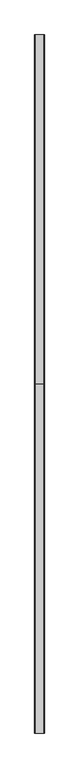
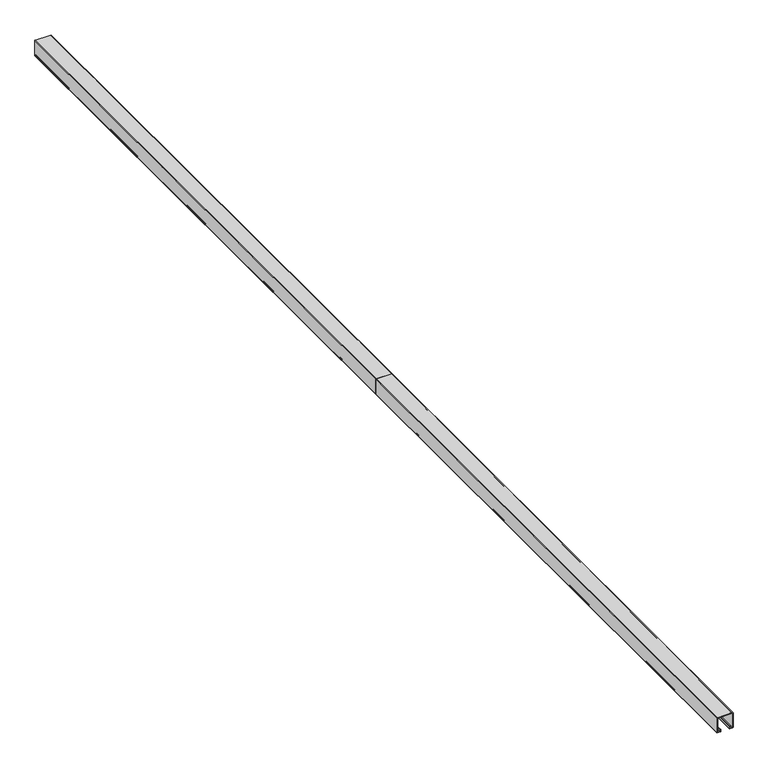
"""IFC4 building model written with IfcOpenShell, lengths in millimetres: proxy geometry, modelo_cirrus 33.3dm."""

from ifc_helpers import new_model, si_unit, point, frame, frame_2d, origin, place, context, project, spatial, polyline, circle_curve, trimmed, segment, composite_curve, outline, extrude, source, transform, mapped, element, save


def generic_models_71086687(model_context):
    return source(origin(), model_context, "Body", "SweptSolid", [
        extrude(outline(composite_curve([segment(polyline([(273.8657165, -1817.236663), (277.4657165, -1817.236663)]), True, "CONTINUOUS"), segment(trimmed(circle_curve(frame_2d((277.4657165, -1818.236663)), 1.0), [point((277.4657165, -1817.236663))], [point((277.4657165, -1819.236663))], False, "CARTESIAN"), True, "CONTINUOUS"), segment(polyline([(277.4657165, -1819.236663), (272.3657165, -1819.236663)]), True, "CONTINUOUS"), segment(trimmed(circle_curve(frame_2d((272.3657165, -1818.236663)), 1.0), [point((272.3657165, -1819.236663))], [point((271.3657165, -1818.236663))], False, "CARTESIAN"), True, "CONTINUOUS"), segment(polyline([(271.3657165, -1818.236663), (271.3657165, -1810.686663)]), True, "CONTINUOUS"), segment(trimmed(circle_curve(frame_2d((272.3657165, -1810.686663)), 1.0), [point((271.3657165, -1810.686663))], [point((272.3657165, -1809.686663))], False, "CARTESIAN"), True, "CONTINUOUS"), segment(polyline([(272.3657165, -1809.686663), (311.6657165, -1809.686663)]), True, "CONTINUOUS"), segment(trimmed(circle_curve(frame_2d((311.6657165, -1810.686663)), 1.0), [point((311.6657165, -1809.686663))], [point((312.6657165, -1810.686663))], False, "CARTESIAN"), True, "CONTINUOUS"), segment(polyline([(312.6657165, -1810.686663), (312.6657165, -1849.986663)]), True, "CONTINUOUS"), segment(trimmed(circle_curve(frame_2d((311.6657165, -1849.986663)), 1.0), [point((312.6657165, -1849.986663))], [point((311.6657165, -1850.986663))], False, "CARTESIAN"), True, "CONTINUOUS"), segment(polyline([(311.6657165, -1850.986663), (272.3657165, -1850.986663)]), True, "CONTINUOUS"), segment(trimmed(circle_curve(frame_2d((272.3657165, -1849.986663)), 1.0), [point((272.3657165, -1850.986663))], [point((271.3657165, -1849.986663))], False, "CARTESIAN"), True, "CONTINUOUS"), segment(polyline([(271.3657165, -1849.986663), (271.3657165, -1842.436663)]), True, "CONTINUOUS"), segment(trimmed(circle_curve(frame_2d((272.3657165, -1842.436663)), 1.0), [point((271.3657165, -1842.436663))], [point((272.3657165, -1841.436663))], False, "CARTESIAN"), True, "CONTINUOUS"), segment(polyline([(272.3657165, -1841.436663), (277.4657165, -1841.436663)]), True, "CONTINUOUS"), segment(trimmed(circle_curve(frame_2d((277.4657165, -1842.436663)), 1.0), [point((277.4657165, -1841.436663))], [point((277.4657165, -1843.436663))], False, "CARTESIAN"), True, "CONTINUOUS"), segment(polyline([(277.4657165, -1843.436663), (273.8657165, -1843.436663)]), True, "CONTINUOUS"), segment(trimmed(circle_curve(frame_2d((273.8657165, -1843.936663)), 0.5), [point((273.8657165, -1843.436663))], [point((273.3657165, -1843.936663))], True, "CARTESIAN"), True, "CONTINUOUS"), segment(polyline([(273.3657165, -1843.936663), (273.3657165, -1848.486663)]), True, "CONTINUOUS"), segment(trimmed(circle_curve(frame_2d((273.8657165, -1848.486663)), 0.5), [point((273.3657165, -1848.486663))], [point((273.8657165, -1848.986663))], True, "CARTESIAN"), True, "CONTINUOUS"), segment(polyline([(273.8657165, -1848.986663), (310.1657165, -1848.986663)]), True, "CONTINUOUS"), segment(trimmed(circle_curve(frame_2d((310.1657165, -1848.486663)), 0.5), [point((310.1657165, -1848.986663))], [point((310.6657165, -1848.486663))], True, "CARTESIAN"), True, "CONTINUOUS"), segment(polyline([(310.6657165, -1848.486663), (310.6657165, -1812.186663)]), True, "CONTINUOUS"), segment(trimmed(circle_curve(frame_2d((310.1657165, -1812.186663)), 0.5), [point((310.6657165, -1812.186663))], [point((310.1657165, -1811.686663))], True, "CARTESIAN"), True, "CONTINUOUS"), segment(polyline([(310.1657165, -1811.686663), (273.8657165, -1811.686663)]), True, "CONTINUOUS"), segment(trimmed(circle_curve(frame_2d((273.8657165, -1812.186663)), 0.5), [point((273.8657165, -1811.686663))], [point((273.3657165, -1812.186663))], True, "CARTESIAN"), True, "CONTINUOUS"), segment(polyline([(273.3657165, -1812.186663), (273.3657165, -1816.736663)]), True, "CONTINUOUS"), segment(trimmed(circle_curve(frame_2d((273.8657165, -1816.736663)), 0.5), [point((273.3657165, -1816.736663))], [point((273.8657165, -1817.236663))], True, "CARTESIAN"), True, "CONTINUOUS")], self_intersect=False)), frame((0.0, 1715.530445, 0.0), z_axis=(0.0, 1.0, 0.0), x_axis=(0.0, 0.0, 1.0)), (0.0, 0.0, 1.0), 1498.6),
        extrude(outline(composite_curve([segment(polyline([(273.8657165, -1817.236663), (277.4657165, -1817.236663)]), True, "CONTINUOUS"), segment(trimmed(circle_curve(frame_2d((277.4657165, -1818.236663)), 1.0), [point((277.4657165, -1817.236663))], [point((277.4657165, -1819.236663))], False, "CARTESIAN"), True, "CONTINUOUS"), segment(polyline([(277.4657165, -1819.236663), (272.3657165, -1819.236663)]), True, "CONTINUOUS"), segment(trimmed(circle_curve(frame_2d((272.3657165, -1818.236663)), 1.0), [point((272.3657165, -1819.236663))], [point((271.3657165, -1818.236663))], False, "CARTESIAN"), True, "CONTINUOUS"), segment(polyline([(271.3657165, -1818.236663), (271.3657165, -1810.686663)]), True, "CONTINUOUS"), segment(trimmed(circle_curve(frame_2d((272.3657165, -1810.686663)), 1.0), [point((271.3657165, -1810.686663))], [point((272.3657165, -1809.686663))], False, "CARTESIAN"), True, "CONTINUOUS"), segment(polyline([(272.3657165, -1809.686663), (311.6657165, -1809.686663)]), True, "CONTINUOUS"), segment(trimmed(circle_curve(frame_2d((311.6657165, -1810.686663)), 1.0), [point((311.6657165, -1809.686663))], [point((312.6657165, -1810.686663))], False, "CARTESIAN"), True, "CONTINUOUS"), segment(polyline([(312.6657165, -1810.686663), (312.6657165, -1849.986663)]), True, "CONTINUOUS"), segment(trimmed(circle_curve(frame_2d((311.6657165, -1849.986663)), 1.0), [point((312.6657165, -1849.986663))], [point((311.6657165, -1850.986663))], False, "CARTESIAN"), True, "CONTINUOUS"), segment(polyline([(311.6657165, -1850.986663), (272.3657165, -1850.986663)]), True, "CONTINUOUS"), segment(trimmed(circle_curve(frame_2d((272.3657165, -1849.986663)), 1.0), [point((272.3657165, -1850.986663))], [point((271.3657165, -1849.986663))], False, "CARTESIAN"), True, "CONTINUOUS"), segment(polyline([(271.3657165, -1849.986663), (271.3657165, -1842.436663)]), True, "CONTINUOUS"), segment(trimmed(circle_curve(frame_2d((272.3657165, -1842.436663)), 1.0), [point((271.3657165, -1842.436663))], [point((272.3657165, -1841.436663))], False, "CARTESIAN"), True, "CONTINUOUS"), segment(polyline([(272.3657165, -1841.436663), (277.4657165, -1841.436663)]), True, "CONTINUOUS"), segment(trimmed(circle_curve(frame_2d((277.4657165, -1842.436663)), 1.0), [point((277.4657165, -1841.436663))], [point((277.4657165, -1843.436663))], False, "CARTESIAN"), True, "CONTINUOUS"), segment(polyline([(277.4657165, -1843.436663), (273.8657165, -1843.436663)]), True, "CONTINUOUS"), segment(trimmed(circle_curve(frame_2d((273.8657165, -1843.936663)), 0.5), [point((273.8657165, -1843.436663))], [point((273.3657165, -1843.936663))], True, "CARTESIAN"), True, "CONTINUOUS"), segment(polyline([(273.3657165, -1843.936663), (273.3657165, -1848.486663)]), True, "CONTINUOUS"), segment(trimmed(circle_curve(frame_2d((273.8657165, -1848.486663)), 0.5), [point((273.3657165, -1848.486663))], [point((273.8657165, -1848.986663))], True, "CARTESIAN"), True, "CONTINUOUS"), segment(polyline([(273.8657165, -1848.986663), (310.1657165, -1848.986663)]), True, "CONTINUOUS"), segment(trimmed(circle_curve(frame_2d((310.1657165, -1848.486663)), 0.5), [point((310.1657165, -1848.986663))], [point((310.6657165, -1848.486663))], True, "CARTESIAN"), True, "CONTINUOUS"), segment(polyline([(310.6657165, -1848.486663), (310.6657165, -1812.186663)]), True, "CONTINUOUS"), segment(trimmed(circle_curve(frame_2d((310.1657165, -1812.186663)), 0.5), [point((310.6657165, -1812.186663))], [point((310.1657165, -1811.686663))], True, "CARTESIAN"), True, "CONTINUOUS"), segment(polyline([(310.1657165, -1811.686663), (273.8657165, -1811.686663)]), True, "CONTINUOUS"), segment(trimmed(circle_curve(frame_2d((273.8657165, -1812.186663)), 0.5), [point((273.8657165, -1811.686663))], [point((273.3657165, -1812.186663))], True, "CARTESIAN"), True, "CONTINUOUS"), segment(polyline([(273.3657165, -1812.186663), (273.3657165, -1816.736663)]), True, "CONTINUOUS"), segment(trimmed(circle_curve(frame_2d((273.8657165, -1816.736663)), 0.5), [point((273.3657165, -1816.736663))], [point((273.8657165, -1817.236663))], True, "CARTESIAN"), True, "CONTINUOUS")], self_intersect=False)), frame((0.0, 216.930445, 0.0), z_axis=(0.0, 1.0, 0.0), x_axis=(0.0, 0.0, 1.0)), (0.0, 0.0, 1.0), 1498.6),
    ])


if __name__ == "__main__":
    model = new_model("IFC4")
    model_context = context("Model", 3, world=origin())
    ifc_project = project(units=[si_unit("LENGTHUNIT", "METRE", prefix="MILLI")], contexts=[model_context])
    site = spatial("IfcSite", under=ifc_project)
    building = spatial("IfcBuilding", under=site)
    placement = place(None, origin())
    generic_models_shape = generic_models_71086687(model_context)
    element("IfcBuildingElementProxy", 1, Name="modelo_cirrus 33.3dm", ObjectType="modelo_cirrus 33.3dm", at=placement, inside=building, context=model_context, shape_type="MappedRepresentation", body=[
        mapped(generic_models_shape, transform((0.0, 0.0, 0.0), x_axis=(1.0, 0.0, 0.0), y_axis=(0.0, 1.0, 0.0), z_axis=(0.0, 0.0, 1.0))),
    ])
    save(model, "model.ifc")
